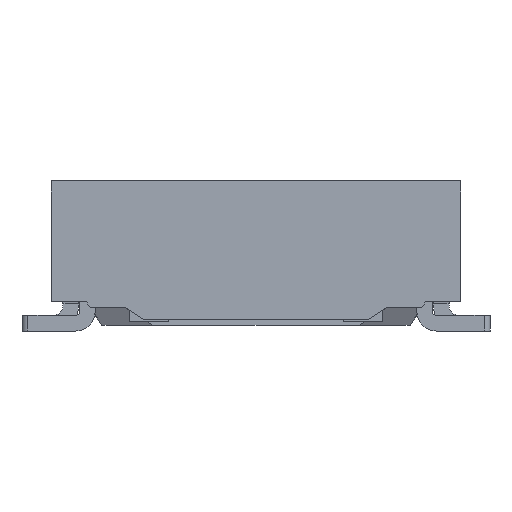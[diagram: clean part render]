
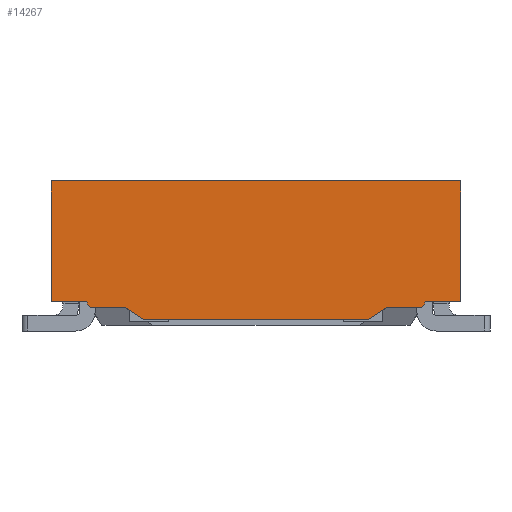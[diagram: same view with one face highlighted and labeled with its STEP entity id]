
A CAD part, left-side view. The second image highlights one B-rep face of the part: STEP entity #14267.
In plain terms, the highlighted planar face has unit normal (-1, 0, 0).
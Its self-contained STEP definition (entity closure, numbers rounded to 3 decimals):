
#14251=AXIS2_PLACEMENT_3D('Plane Axis2P3D',#14248,#14249,#14250) ;
#7267=CARTESIAN_POINT('Vertex',(2.9,1.05,0.74)) ;
#7270=CARTESIAN_POINT('Line Origine',(2.9,0.,0.74)) ;
#7274=CARTESIAN_POINT('Vertex',(2.9,-1.05,0.74)) ;
#8966=CARTESIAN_POINT('Vertex',(2.9,0.85,0.09)) ;
#8969=CARTESIAN_POINT('Line Origine',(2.9,0.83,0.06)) ;
#8973=CARTESIAN_POINT('Vertex',(2.9,0.87,0.12)) ;
#9877=CARTESIAN_POINT('Vertex',(2.9,-0.67,0.09)) ;
#9880=CARTESIAN_POINT('Line Origine',(2.9,-0.623,0.06)) ;
#9884=CARTESIAN_POINT('Vertex',(2.9,-0.577,0.03)) ;
#9911=CARTESIAN_POINT('Vertex',(2.9,-0.85,0.09)) ;
#9914=CARTESIAN_POINT('Line Origine',(2.9,-0.76,0.09)) ;
#10148=CARTESIAN_POINT('Vertex',(2.9,-0.87,0.12)) ;
#10151=CARTESIAN_POINT('Line Origine',(2.9,-0.83,0.06)) ;
#10322=CARTESIAN_POINT('Vertex',(2.9,0.67,0.09)) ;
#10325=CARTESIAN_POINT('Line Origine',(2.9,0.76,0.09)) ;
#10360=CARTESIAN_POINT('Line Origine',(2.9,0.,0.03)) ;
#10364=CARTESIAN_POINT('Vertex',(2.9,0.577,0.03)) ;
#10381=CARTESIAN_POINT('Line Origine',(2.9,0.623,0.06)) ;
#13682=CARTESIAN_POINT('Vertex',(2.9,-1.05,0.12)) ;
#13685=CARTESIAN_POINT('Line Origine',(2.9,-0.96,0.12)) ;
#13770=CARTESIAN_POINT('Vertex',(2.9,1.05,0.12)) ;
#13773=CARTESIAN_POINT('Line Origine',(2.9,1.05,0.43)) ;
#13814=CARTESIAN_POINT('Line Origine',(2.9,-1.05,0.43)) ;
#13864=CARTESIAN_POINT('Line Origine',(2.9,0.96,0.12)) ;
#14248=CARTESIAN_POINT('Axis2P3D Location',(2.9,0.,0.)) ;
#7271=DIRECTION('Vector Direction',(0.,-1.,0.)) ;
#8970=DIRECTION('Vector Direction',(0.,0.555,0.832)) ;
#9881=DIRECTION('Vector Direction',(0.,0.841,-0.541)) ;
#9915=DIRECTION('Vector Direction',(0.,1.,0.)) ;
#10152=DIRECTION('Vector Direction',(0.,-0.555,0.832)) ;
#10326=DIRECTION('Vector Direction',(0.,1.,0.)) ;
#10361=DIRECTION('Vector Direction',(0.,1.,0.)) ;
#10382=DIRECTION('Vector Direction',(0.,-0.841,-0.541)) ;
#13686=DIRECTION('Vector Direction',(0.,1.,0.)) ;
#13774=DIRECTION('Vector Direction',(0.,0.,1.)) ;
#13815=DIRECTION('Vector Direction',(0.,0.,1.)) ;
#13865=DIRECTION('Vector Direction',(0.,1.,0.)) ;
#14249=DIRECTION('Axis2P3D Direction',(1.,0.,0.)) ;
#14250=DIRECTION('Axis2P3D XDirection',(0.,1.,0.)) ;
#7272=VECTOR('Line Direction',#7271,1.) ;
#8971=VECTOR('Line Direction',#8970,1.) ;
#9882=VECTOR('Line Direction',#9881,1.) ;
#9916=VECTOR('Line Direction',#9915,1.) ;
#10153=VECTOR('Line Direction',#10152,1.) ;
#10327=VECTOR('Line Direction',#10326,1.) ;
#10362=VECTOR('Line Direction',#10361,1.) ;
#10383=VECTOR('Line Direction',#10382,1.) ;
#13687=VECTOR('Line Direction',#13686,1.) ;
#13775=VECTOR('Line Direction',#13774,1.) ;
#13816=VECTOR('Line Direction',#13815,1.) ;
#13866=VECTOR('Line Direction',#13865,1.) ;
#14254=ORIENTED_EDGE('',*,*,#10385,.F.) ;
#14255=ORIENTED_EDGE('',*,*,#10366,.T.) ;
#14256=ORIENTED_EDGE('',*,*,#9886,.T.) ;
#14257=ORIENTED_EDGE('',*,*,#9918,.T.) ;
#14258=ORIENTED_EDGE('',*,*,#10155,.T.) ;
#14259=ORIENTED_EDGE('',*,*,#13689,.F.) ;
#14260=ORIENTED_EDGE('',*,*,#13818,.T.) ;
#14261=ORIENTED_EDGE('',*,*,#7276,.T.) ;
#14262=ORIENTED_EDGE('',*,*,#13777,.F.) ;
#14263=ORIENTED_EDGE('',*,*,#13868,.T.) ;
#14264=ORIENTED_EDGE('',*,*,#8975,.F.) ;
#14265=ORIENTED_EDGE('',*,*,#10329,.F.) ;
#14267=ADVANCED_FACE('REC INSULATOR-(PJF 5843602-A)',(#14266),#14252,.F.) ;
#7276=EDGE_CURVE('',#7275,#7268,#7273,.F.) ;
#8975=EDGE_CURVE('',#8967,#8974,#8972,.T.) ;
#9886=EDGE_CURVE('',#9885,#9878,#9883,.F.) ;
#9918=EDGE_CURVE('',#9878,#9912,#9917,.F.) ;
#10155=EDGE_CURVE('',#9912,#10149,#10154,.T.) ;
#10329=EDGE_CURVE('',#10323,#8967,#10328,.T.) ;
#10366=EDGE_CURVE('',#10365,#9885,#10363,.F.) ;
#10385=EDGE_CURVE('',#10365,#10323,#10384,.F.) ;
#13689=EDGE_CURVE('',#13683,#10149,#13688,.T.) ;
#13777=EDGE_CURVE('',#13771,#7268,#13776,.T.) ;
#13818=EDGE_CURVE('',#13683,#7275,#13817,.T.) ;
#13868=EDGE_CURVE('',#13771,#8974,#13867,.F.) ;
#14253=EDGE_LOOP('',(#14254,#14255,#14256,#14257,#14258,#14259,#14260,#14261,#14262,#14263,#14264,#14265)) ;
#14266=FACE_OUTER_BOUND('',#14253,.T.) ;
#7273=LINE('Line',#7270,#7272) ;
#8972=LINE('Line',#8969,#8971) ;
#9883=LINE('Line',#9880,#9882) ;
#9917=LINE('Line',#9914,#9916) ;
#10154=LINE('Line',#10151,#10153) ;
#10328=LINE('Line',#10325,#10327) ;
#10363=LINE('Line',#10360,#10362) ;
#10384=LINE('Line',#10381,#10383) ;
#13688=LINE('Line',#13685,#13687) ;
#13776=LINE('Line',#13773,#13775) ;
#13817=LINE('Line',#13814,#13816) ;
#13867=LINE('Line',#13864,#13866) ;
#14252=PLANE('Plane',#14251) ;
#7268=VERTEX_POINT('',#7267) ;
#7275=VERTEX_POINT('',#7274) ;
#8967=VERTEX_POINT('',#8966) ;
#8974=VERTEX_POINT('',#8973) ;
#9878=VERTEX_POINT('',#9877) ;
#9885=VERTEX_POINT('',#9884) ;
#9912=VERTEX_POINT('',#9911) ;
#10149=VERTEX_POINT('',#10148) ;
#10323=VERTEX_POINT('',#10322) ;
#10365=VERTEX_POINT('',#10364) ;
#13683=VERTEX_POINT('',#13682) ;
#13771=VERTEX_POINT('',#13770) ;
